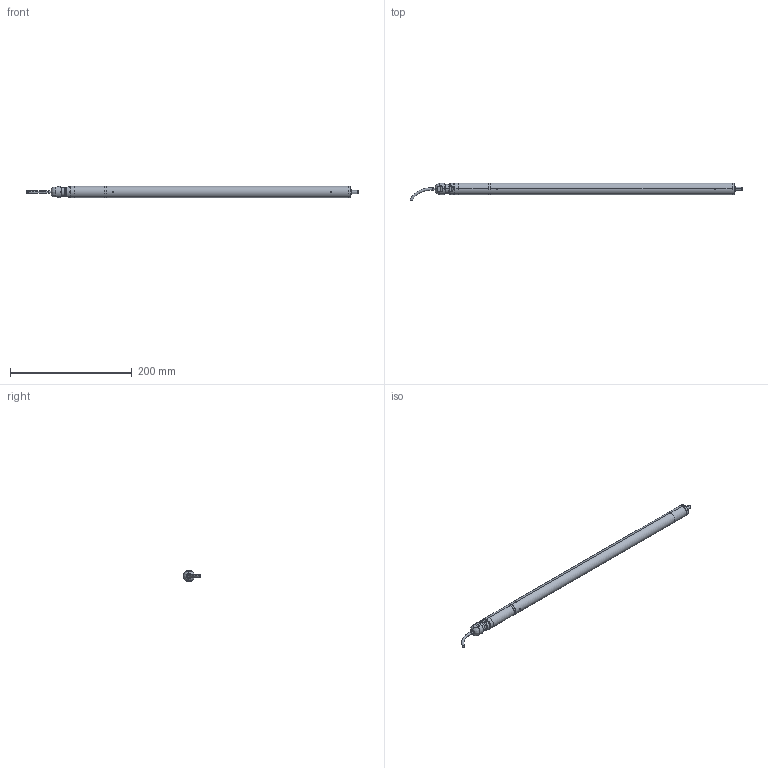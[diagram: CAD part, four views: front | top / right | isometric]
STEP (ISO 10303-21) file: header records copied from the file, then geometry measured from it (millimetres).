
FILE_DESCRIPTION (( 'STEP AP214' ), '1' );
FILE_NAME ('S119-350AL50.STEP', '2025-04-10T10:36:21', ( '' ), ( '' ), 'SwSTEP 2.0', 'SolidWorks 2023', '' );
FILE_SCHEMA (( 'AUTOMOTIVE_DESIGN' ));
Length unit declared in the file: millimetre
Products named in the file (1): S119-350AL50
Bounding box: 545.02 x 29.17 x 19.05 mm (x, y, z)
Surface area: 64194.3 mm2 (no closed solid volume)
Topology: 0 solids, 17 shells, 119 faces, 356 edges, 249 vertices
Faces by surface type: cylinder 60, plane 35, cone 12, torus 8, bspline 4
Entity records: 5034 total; most frequent: CARTESIAN_POINT 1855, DIRECTION 646, ORIENTED_EDGE 614, EDGE_CURVE 356, AXIS2_PLACEMENT_3D 258, VERTEX_POINT 249, EDGE_LOOP 151, CIRCLE 142
